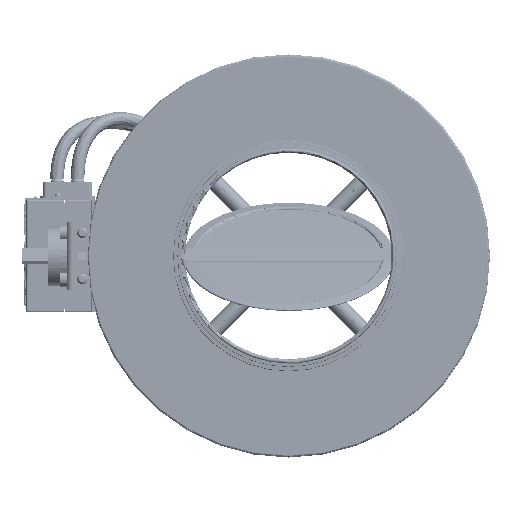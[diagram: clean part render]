
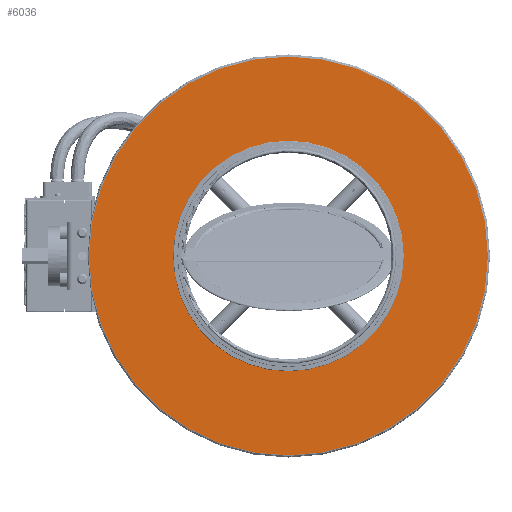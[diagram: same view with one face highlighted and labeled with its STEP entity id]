
A CAD part, left-side view. The second image highlights one B-rep face of the part: STEP entity #6036.
In plain terms, the highlighted planar face has unit normal (-1, 0, 0) as drawn and (0, -1, 0) by its records, which use the part's own axes.
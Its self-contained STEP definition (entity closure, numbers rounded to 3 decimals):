
#5013 = ORIENTED_EDGE ( 'NONE', *, *, #76851, .F. ) ;
#6036 = ADVANCED_FACE ( 'NONE', ( #152322, #146800 ), #240602, .T. ) ;
#14436 = AXIS2_PLACEMENT_3D ( 'NONE', #305623, #106309, #48905 ) ;
#31983 = CARTESIAN_POINT ( 'NONE',  ( 0., 0., 0. ) ) ;
#48796 = DIRECTION ( 'NONE',  ( 0., -1., 0. ) ) ;
#48905 = DIRECTION ( 'NONE',  ( 1., 0., 0. ) ) ;
#51654 = EDGE_LOOP ( 'NONE', ( #5013 ) ) ;
#76851 = EDGE_CURVE ( 'NONE', #287473, #287473, #220639, .T. ) ;
#106309 = DIRECTION ( 'NONE',  ( 0., -1., 0. ) ) ;
#113095 = CARTESIAN_POINT ( 'NONE',  ( 12.5, 0., 0. ) ) ;
#140421 = VERTEX_POINT ( 'NONE', #314797 ) ;
#146800 = FACE_BOUND ( 'NONE', #51654, .T. ) ;
#152322 = FACE_OUTER_BOUND ( 'NONE', #263835, .T. ) ;
#190311 = AXIS2_PLACEMENT_3D ( 'NONE', #31983, #323081, #300022 ) ;
#192261 = CARTESIAN_POINT ( 'NONE',  ( -50., 0., 0. ) ) ;
#220639 = CIRCLE ( 'NONE', #349228, 62.5 ) ;
#240602 = PLANE ( 'NONE',  #190311 ) ;
#263835 = EDGE_LOOP ( 'NONE', ( #299020 ) ) ;
#280577 = DIRECTION ( 'NONE',  ( 1., 0., 0. ) ) ;
#287473 = VERTEX_POINT ( 'NONE', #113095 ) ;
#299020 = ORIENTED_EDGE ( 'NONE', *, *, #300443, .T. ) ;
#300022 = DIRECTION ( 'NONE',  ( 1., 0., 0. ) ) ;
#300443 = EDGE_CURVE ( 'NONE', #140421, #140421, #374850, .T. ) ;
#305623 = CARTESIAN_POINT ( 'NONE',  ( -50., 0., 0. ) ) ;
#314797 = CARTESIAN_POINT ( 'NONE',  ( 66.5, 0., 0. ) ) ;
#323081 = DIRECTION ( 'NONE',  ( 0., -1., 0. ) ) ;
#349228 = AXIS2_PLACEMENT_3D ( 'NONE', #192261, #48796, #280577 ) ;
#374850 = CIRCLE ( 'NONE', #14436, 116.5 ) ;
